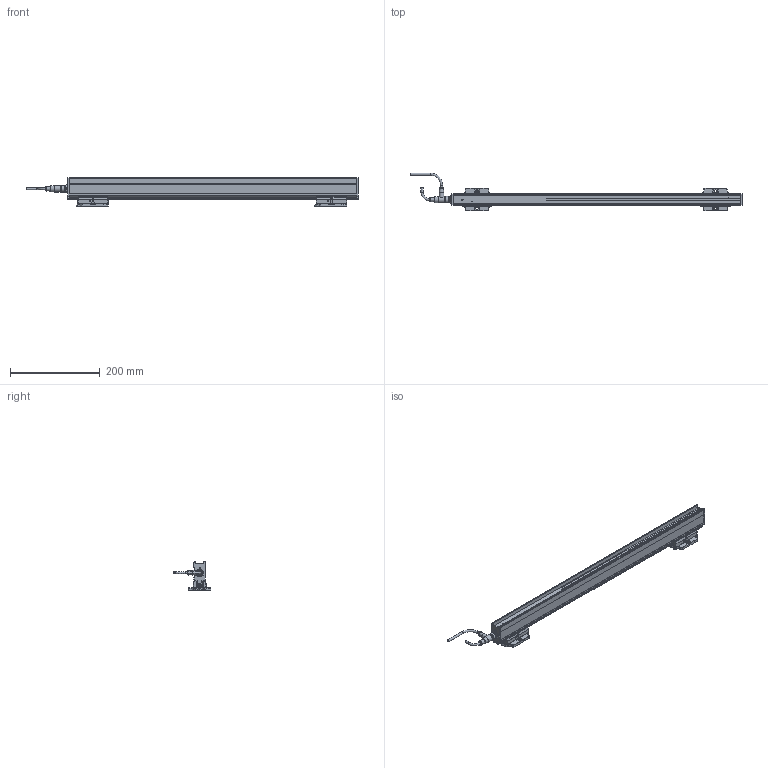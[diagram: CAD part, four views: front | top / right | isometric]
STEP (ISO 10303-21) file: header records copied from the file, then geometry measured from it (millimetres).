
FILE_DESCRIPTION(('Bauteilbeschreibung','HiCAD-Model','HiCAD-STEP-TRANSLATION','Bauteilbeschreibung'),'2;1');
FILE_NAME('PERFORMAXIQEASY_ 570-660_3D.STP','2014-03-05T11:23:36+00:00',('Konstrukteur'),('Konstrukteur Firma GmbH'),' HiCAD 2011, Step 1600.0 ','HiCAD 2011','confidential');
FILE_SCHEMA(('AUTOMOTIVE_DESIGN { 1 2 10303 214 0 1 1 1 }'));
Products named in the file (38): PERFORMAXIQEASY_ 570_660_3D; A_PERFORMAX IQ EASY 570_660; A_PERFORMAX IQ EASY SPEED; A_CAP DE; A_CAP CE_5; GROUP; PIN; GROUP0; PIN0; LED_2C_3MM; LED02C03MM; A519020315_CONNECTOR APPLIANCE; A_INSERT; A_CONTACTS; A_HOUSING; A_PROFILE; A_POTTING; A532000100_BRACKET BARS_ MOUNT; A_SIDE PIECE; A0SIDE0PIECE; A_BRACKET SMALL; A_SLIDE PIECE; A5320001000BRACKET0BARS00MOUNT; A0SIDE0PIECE0; A0SIDE0PIECE1; A0BRACKET0SMALL; A0SLIDE0PIECE; A_CONNECTOR STRAIGHT; EXTRUDED SOLID_0; DRAAD GEBOGEN; REVOLVED SOLID_1; REVOLVED SOLID_3; A_CONNECTOR ANGLED; REVOLVED0SOLID01; EXTRUDED0SOLID00; C_EDGE SWEEP_0; REVOLVED SOLID_2; REVOLVED0SOLID03
Assembly tree (37 placements, depth 5):
  PERFORMAXIQEASY_ 570_660_3D
    A_PERFORMAX IQ EASY 570_660
      A_PERFORMAX IQ EASY SPEED
        A_CAP DE
        A_CAP CE_5
        GROUP
          PIN
        GROUP0
          PIN0
        LED_2C_3MM
        LED02C03MM
        A519020315_CONNECTOR APPLIANCE
          A_INSERT
          A_CONTACTS
          A_HOUSING
        A_PROFILE
        A_POTTING
      A532000100_BRACKET BARS_ MOUNT
        A_SIDE PIECE
        A0SIDE0PIECE
        A_BRACKET SMALL
        A_SLIDE PIECE
      A5320001000BRACKET0BARS00MOUNT
        A0SIDE0PIECE0
        A0SIDE0PIECE1
        A0BRACKET0SMALL
        A0SLIDE0PIECE
      A_CONNECTOR STRAIGHT
        EXTRUDED SOLID_0
        DRAAD GEBOGEN
        REVOLVED SOLID_1
        REVOLVED SOLID_3
      A_CONNECTOR ANGLED
        REVOLVED0SOLID01
        EXTRUDED0SOLID00
        C_EDGE SWEEP_0
        REVOLVED SOLID_2
        REVOLVED0SOLID03
Bounding box: 737.89 x 84.28 x 63.13 mm (x, y, z)
Volume: 703661.5 mm3; surface area: 197319 mm2
Topology: 33 solids, 33 shells, 1911 faces, 4879 edges, 2932 vertices
Faces by surface type: cylinder 777, plane 751, sphere 112, torus 111, bspline 88, cone 72
Full cylindrical faces by diameter (mm): 0.8 x10, 1 x5, 2.387 x4, 3 x11, 3.1 x1, 4.2 x2, 5 x4, 5.5 x10, 8 x2, 8.2 x1, 8.4 x2, 8.945 x1, 9 x2, 10.2 x1, 10.5 x3, 11 x1, 12 x3, 12.8 x1, 13.8 x4, 14.5 x3
Entity records: 87383 total; most frequent: CARTESIAN_POINT 19760, DIRECTION 9521, ORIENTED_EDGE 9176, EDGE_CURVE 4588, COLOUR_RGB 4377, PRESENTATION_STYLE_ASSIGNMENT 4377, OVER_RIDING_STYLED_ITEM 4349, CURVE_STYLE 4344
